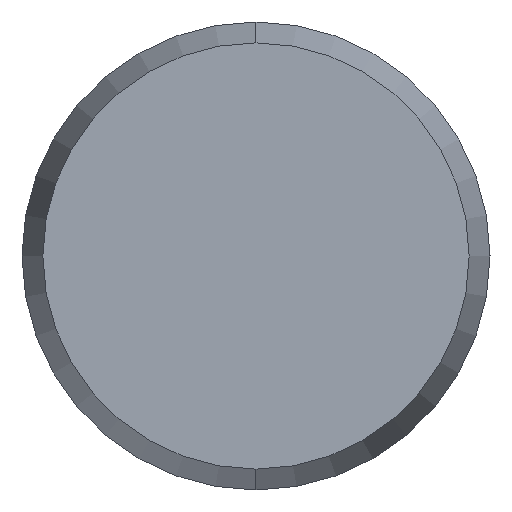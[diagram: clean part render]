
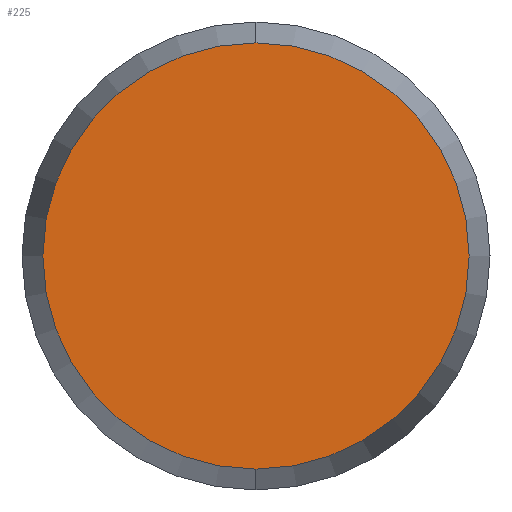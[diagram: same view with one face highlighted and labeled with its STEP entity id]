
A CAD part, left-side view. The second image highlights one B-rep face of the part: STEP entity #225.
In plain terms, the highlighted planar face has unit normal (-1, 0, 0).
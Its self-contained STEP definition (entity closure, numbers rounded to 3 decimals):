
#32 = CARTESIAN_POINT ( 'NONE',  ( -9., 0., 0. ) ) ;
#33 = AXIS2_PLACEMENT_3D ( 'NONE', #32, #52, #49 ) ;
#34 = CIRCLE ( 'NONE', #33, 1.366 ) ;
#49 = DIRECTION ( 'NONE',  ( 0., 0., -1. ) ) ;
#52 = DIRECTION ( 'NONE',  ( 1., 0., 0. ) ) ;
#64 = CARTESIAN_POINT ( 'NONE',  ( -9., 0., 0. ) ) ;
#65 = AXIS2_PLACEMENT_3D ( 'NONE', #64, #78, #77 ) ;
#73 = FACE_OUTER_BOUND ( 'NONE', #224, .T. ) ;
#77 = DIRECTION ( 'NONE',  ( 0., 0., -1. ) ) ;
#78 = DIRECTION ( 'NONE',  ( 1., 0., 0. ) ) ;
#79 = PLANE ( 'NONE',  #65 ) ;
#194 = VERTEX_POINT ( 'NONE', #260 ) ;
#197 = VERTEX_POINT ( 'NONE', #259 ) ;
#198 = EDGE_CURVE ( 'NONE', #194, #197, #253, .T. ) ;
#216 = EDGE_CURVE ( 'NONE', #197, #194, #34, .T. ) ;
#224 = EDGE_LOOP ( 'NONE', ( #231, #228 ) ) ;
#225 = ADVANCED_FACE ( 'NONE', ( #73 ), #79, .F. ) ;
#228 = ORIENTED_EDGE ( 'NONE', *, *, #216, .F. ) ;
#231 = ORIENTED_EDGE ( 'NONE', *, *, #198, .F. ) ;
#252 = AXIS2_PLACEMENT_3D ( 'NONE', #256, #255, #254 ) ;
#253 = CIRCLE ( 'NONE', #252, 1.366 ) ;
#254 = DIRECTION ( 'NONE',  ( 0., 0., -1. ) ) ;
#255 = DIRECTION ( 'NONE',  ( 1., 0., 0. ) ) ;
#256 = CARTESIAN_POINT ( 'NONE',  ( -9., 0., 0. ) ) ;
#259 = CARTESIAN_POINT ( 'NONE',  ( -9., 0., -1.366 ) ) ;
#260 = CARTESIAN_POINT ( 'NONE',  ( -9., 0., 1.366 ) ) ;
